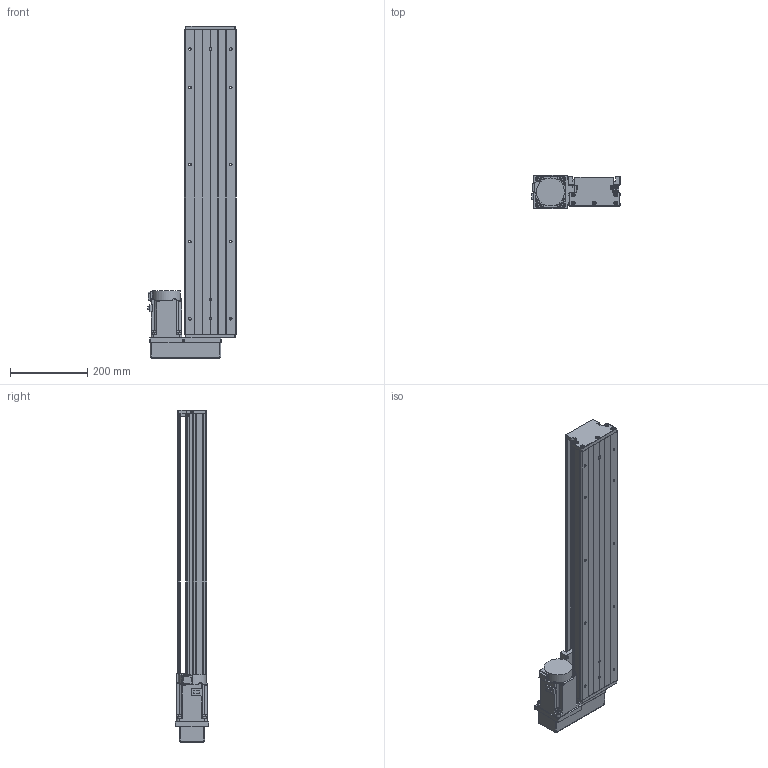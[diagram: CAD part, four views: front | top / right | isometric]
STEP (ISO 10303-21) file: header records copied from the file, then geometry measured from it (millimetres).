
FILE_DESCRIPTION (( 'STEP AP203' ), '1' );
FILE_NAME ('KTH130-650-BL-M75-C4.step', '2023-06-30T04:26:18', ( '微软用户' ), ( '微软中国' ), 'SwSTEP 2.0', 'SolidWorks 2020', '' );
FILE_SCHEMA (( 'CONFIG_CONTROL_DESIGN' ));
Length unit declared in the file: millimetre
Products named in the file (18): KTH130-002_KTH130-002; EE_SX911P_R; CTHA86-015-3_CTHA86-015-4; KTH130-004; CTHA60-016; CTHA86-035; KTH130-005; GBT 70.1-M3℅5; KTH130-650-BL-M75-C4; GB1155-6X6; GBT77-2000 M3×3; GBT70.1 M5℅16; す晦芛蹟隊 M3℅5; GBT 70.2-M3¡Á5_M3¡Á6; GBT 70.3-M3℅8; GTH14-001_650; CTHA60-017; hg-kn73j_-s100
Assembly tree (49 placements, depth 2):
  KTH130-650-BL-M75-C4
    GTH14-001_650
    KTH130-002_KTH130-002
    KTH130-004
    KTH130-005
    GB1155-6X6  x2
    GBT70.1 M5℅16  x10
    GBT 70.2-M3¡Á5_M3¡Á6  x4
    CTHA60-017  x3
    EE_SX911P_R  x3
    CTHA60-016  x2
    GBT 70.1-M3℅5  x6
    GBT77-2000 M3×3  x6
    す晦芛蹟隊 M3℅5  x2
    GBT 70.3-M3℅8  x4
    hg-kn73j_-s100
    CTHA86-015-3_CTHA86-015-4
    CTHA86-035
Bounding box: 230.3 x 87 x 862 mm (x, y, z)
Volume: 5720431.9 mm3; surface area: 824168.7 mm2
Topology: 52 solids, 52 shells, 2192 faces, 5316 edges, 3327 vertices
Faces by surface type: plane 1208, cylinder 630, cone 238, torus 100, sphere 16
Entity records: 39945 total; most frequent: CARTESIAN_POINT 6722, DIRECTION 6577, ORIENTED_EDGE 6136, EDGE_CURVE 3068, AXIS2_PLACEMENT_3D 2300, LINE 1977, VECTOR 1977, VERTEX_POINT 1961
